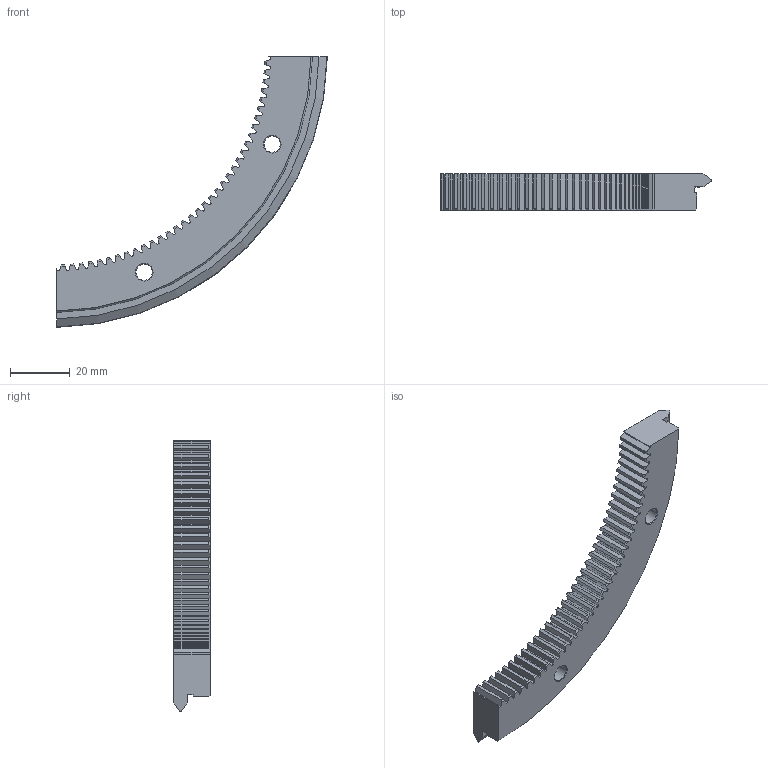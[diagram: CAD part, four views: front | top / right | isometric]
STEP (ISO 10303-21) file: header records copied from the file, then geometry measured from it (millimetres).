
FILE_DESCRIPTION( ( 'STEP AP203' ), '1' );
FILE_NAME( 'p:/temp/worker_34/temp/exporttempdir_4840_522_lrhKJ/format_0/RES 184 R90 Q.stp', '2021-08-30T05:06:25', ( 'License CC BY-ND 4.0' ), ( 'CADENAS' ), ' ', 'PARTsolutions', ' ' );
FILE_SCHEMA( ( 'CONFIG_CONTROL_DESIGN' ) );
Length unit declared in the file: millimetre
Products named in the file (1): _RES 184 R90 Q
Bounding box: 90.99 x 12.25 x 90.99 mm (x, y, z)
Volume: 23670.7 mm3; surface area: 9919.5 mm2
Topology: 1 solids, 1 shells, 198 faces, 580 edges, 386 vertices
Faces by surface type: plane 80, cylinder 77, cone 40, torus 1
Full cylindrical faces by diameter (mm): 5.5 x2, 10 x2
Entity records: 6734 total; most frequent: CARTESIAN_POINT 1403, ORIENTED_EDGE 1148, DIRECTION 1090, EDGE_CURVE 574, AXIS2_PLACEMENT_3D 395, VERTEX_POINT 386, LINE 300, VECTOR 300
